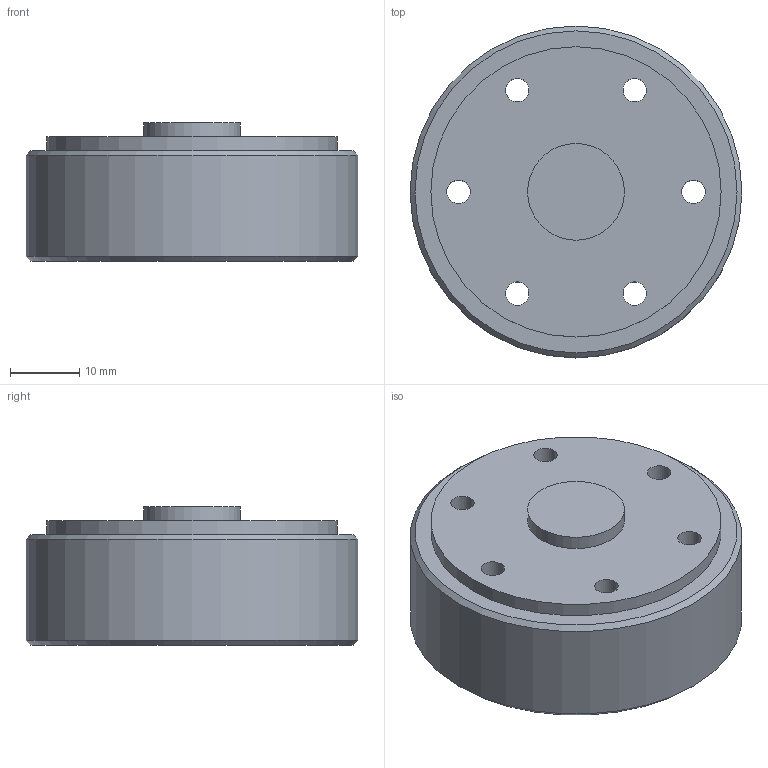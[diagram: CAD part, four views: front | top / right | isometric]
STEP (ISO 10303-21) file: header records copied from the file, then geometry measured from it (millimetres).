
FILE_DESCRIPTION(('Open CASCADE Model'),'2;1');
FILE_NAME('Q4-301','2026-10-05T14:37:22',('Author'),('Open CASCADE'), 'Open CASCADE STEP processor 8.0','build123d','Unknown');
FILE_SCHEMA(('AUTOMOTIVE_DESIGN { 1 0 10303 214 1 1 1 1 }'));
Length unit declared in the file: millimetre
Products named in the file (1): Q4-301
Bounding box: 48 x 48 x 20 mm (x, y, z)
Volume: 30978 mm3; surface area: 7303.4 mm2
Topology: 1 solids, 1 shells, 15 faces, 31 edges, 20 vertices
Faces by surface type: cylinder 9, plane 4, cone 2
Full cylindrical faces by diameter (mm): 3.4 x6, 14 x1, 42 x1, 48 x1
Entity records: 842 total; most frequent: DIRECTION 141, CARTESIAN_POINT 133, ORIENTED_EDGE 62, PCURVE 62, DEFINITIONAL_REPRESENTATION 62, LINE 51, VECTOR 51, CIRCLE 38
